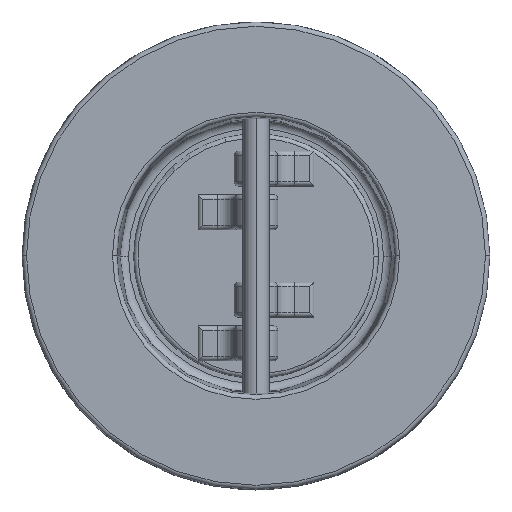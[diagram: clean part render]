
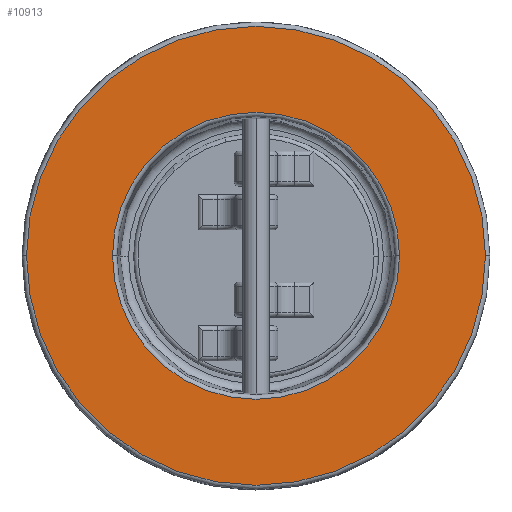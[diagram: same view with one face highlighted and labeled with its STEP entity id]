
A CAD part, top view. The second image highlights one B-rep face of the part: STEP entity #10913.
In plain terms, the highlighted planar face has unit normal (0, 0, 1).
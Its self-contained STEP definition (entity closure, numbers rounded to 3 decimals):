
#118 = EDGE_CURVE ( 'NONE', #3793, #5125, #12027, .T. ) ;
#329 = ORIENTED_EDGE ( 'NONE', *, *, #118, .T. ) ;
#355 = DIRECTION ( 'NONE',  ( 1., 0., 0. ) ) ;
#380 = ORIENTED_EDGE ( 'NONE', *, *, #10110, .T. ) ;
#675 = AXIS2_PLACEMENT_3D ( 'NONE', #1938, #2890, #6757 ) ;
#1237 = FACE_OUTER_BOUND ( 'NONE', #6320, .T. ) ;
#1606 = DIRECTION ( 'NONE',  ( 0., 0., -1. ) ) ;
#1938 = CARTESIAN_POINT ( 'NONE',  ( 0., 0., 21.5 ) ) ;
#2097 = AXIS2_PLACEMENT_3D ( 'NONE', #8460, #1606, #5657 ) ;
#2236 = EDGE_LOOP ( 'NONE', ( #329, #380 ) ) ;
#2560 = CARTESIAN_POINT ( 'NONE',  ( 52.5, 0., 21.5 ) ) ;
#2890 = DIRECTION ( 'NONE',  ( 0., 0., -1. ) ) ;
#2920 = CARTESIAN_POINT ( 'NONE',  ( -32.83, 0., 21.5 ) ) ;
#3040 = CARTESIAN_POINT ( 'NONE',  ( -52.5, 0., 21.5 ) ) ;
#3726 = AXIS2_PLACEMENT_3D ( 'NONE', #9235, #4281, #355 ) ;
#3793 = VERTEX_POINT ( 'NONE', #9108 ) ;
#4082 = CARTESIAN_POINT ( 'NONE',  ( 0., 0., 21.5 ) ) ;
#4138 = DIRECTION ( 'NONE',  ( 1., 0., 0. ) ) ;
#4281 = DIRECTION ( 'NONE',  ( 0., 0., 1. ) ) ;
#4935 = CIRCLE ( 'NONE', #6766, 52.5 ) ;
#5099 = PLANE ( 'NONE',  #3726 ) ;
#5125 = VERTEX_POINT ( 'NONE', #2920 ) ;
#5231 = CARTESIAN_POINT ( 'NONE',  ( 0., 0., 21.5 ) ) ;
#5439 = AXIS2_PLACEMENT_3D ( 'NONE', #4082, #9029, #4138 ) ;
#5657 = DIRECTION ( 'NONE',  ( 1., 0., 0. ) ) ;
#6059 = FACE_BOUND ( 'NONE', #2236, .T. ) ;
#6320 = EDGE_LOOP ( 'NONE', ( #7146, #6468 ) ) ;
#6468 = ORIENTED_EDGE ( 'NONE', *, *, #10996, .T. ) ;
#6757 = DIRECTION ( 'NONE',  ( 1., 0., 0. ) ) ;
#6766 = AXIS2_PLACEMENT_3D ( 'NONE', #5231, #7333, #11966 ) ;
#7146 = ORIENTED_EDGE ( 'NONE', *, *, #8049, .T. ) ;
#7333 = DIRECTION ( 'NONE',  ( 0., 0., 1. ) ) ;
#8049 = EDGE_CURVE ( 'NONE', #10166, #11976, #9293, .T. ) ;
#8391 = CIRCLE ( 'NONE', #2097, 32.83 ) ;
#8460 = CARTESIAN_POINT ( 'NONE',  ( 0., 0., 21.5 ) ) ;
#9029 = DIRECTION ( 'NONE',  ( 0., 0., 1. ) ) ;
#9108 = CARTESIAN_POINT ( 'NONE',  ( 32.83, 0., 21.5 ) ) ;
#9235 = CARTESIAN_POINT ( 'NONE',  ( 0., 0., 21.5 ) ) ;
#9293 = CIRCLE ( 'NONE', #5439, 52.5 ) ;
#10110 = EDGE_CURVE ( 'NONE', #5125, #3793, #8391, .T. ) ;
#10166 = VERTEX_POINT ( 'NONE', #2560 ) ;
#10913 = ADVANCED_FACE ( 'NONE', ( #6059, #1237 ), #5099, .T. ) ;
#10996 = EDGE_CURVE ( 'NONE', #11976, #10166, #4935, .T. ) ;
#11966 = DIRECTION ( 'NONE',  ( 1., 0., 0. ) ) ;
#11976 = VERTEX_POINT ( 'NONE', #3040 ) ;
#12027 = CIRCLE ( 'NONE', #675, 32.83 ) ;
